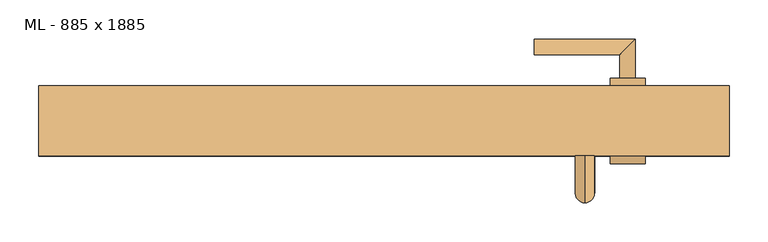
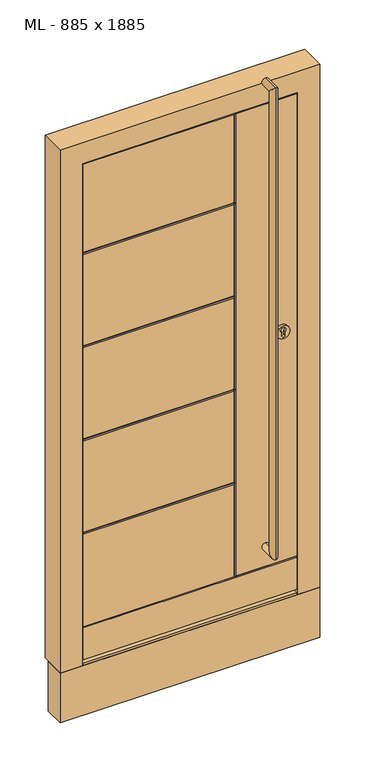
"""IFC4 building model written with IfcOpenShell, lengths in millimetres: door geometry, TU DF 1 - Haustüre : ML - 885 x 1885."""

import ifcopenshell
import ifcopenshell.guid

model = None  # the IFC model being written
_history = None  # IfcOwnerHistory: only IFC2X3 demands one
_inside = {}  # id of a spatial element -> (the spatial element, [elements in it])
_under = {}  # id of a project, library or spatial element -> (it, [spatial elements below it])
_declared = {}  # id of a project -> (the project, [libraries it declares])
_typed = {}  # id of a type object -> (the type object, [elements of that type])
_made_of = {}  # id of a material, layer set ... -> (it, [elements and type objects made of it])


def new_model(schema):
    """Start an empty IFC model of exactly this schema.

    Asked for "IFC4X3", IfcOpenShell would pick the latest addendum, in which some entities
    have other attributes; the version numbers below select the first issue.
    IFC2X3 requires an IfcOwnerHistory on every rooted entity: one is made here for all.
    """
    global model, _history
    if schema == "IFC4X3":
        model = ifcopenshell.file(schema_version=(4, 3, 0, 0))
    else:
        model = ifcopenshell.file(schema=schema)
    _inside.clear()
    _under.clear()
    _declared.clear()
    _typed.clear()
    _made_of.clear()
    _history = None
    if model.schema == "IFC2X3":
        org = make("IfcOrganization", Name="unknown")
        user = make(
            "IfcPersonAndOrganization",
            ThePerson=make("IfcPerson", FamilyName="unknown"),
            TheOrganization=org,
        )
        app = make(
            "IfcApplication",
            ApplicationDeveloper=org,
            Version="unknown",
            ApplicationFullName="unknown",
            ApplicationIdentifier="unknown",
        )
        _history = make(
            "IfcOwnerHistory",
            OwningUser=user,
            OwningApplication=app,
            ChangeAction="ADDED",
            CreationDate=0,
        )
    return model


def make(cls, **values):
    """One entity of the class cls with the attributes given. An attribute that is None is left unset."""
    return model.create_entity(
        cls, **{name: value for name, value in values.items() if value is not None}
    )


def rooted(cls, **values):
    """An entity with a GlobalId (a new one), such as an element, a storey or a relation."""
    return make(cls, GlobalId=ifcopenshell.guid.new(), OwnerHistory=_history, **values)


def si_unit(unit_type, name, prefix=None):
    """IfcSIUnit, for example si_unit("LENGTHUNIT", "METRE", prefix="MILLI")."""
    return make("IfcSIUnit", UnitType=unit_type, Prefix=prefix, Name=name)


def assignment(units):
    """IfcUnitAssignment: the units of a project."""
    return None if units is None else make("IfcUnitAssignment", Units=units)


def point(xyz):
    """IfcCartesianPoint."""
    return None if xyz is None else make("IfcCartesianPoint", Coordinates=xyz)


def direction(xyz):
    """IfcDirection."""
    return None if xyz is None else make("IfcDirection", DirectionRatios=xyz)


def frame(location, z_axis=None, x_axis=None):
    """IfcAxis2Placement3D, a coordinate frame: its origin and axes. An axis left out is left unset."""
    return make(
        "IfcAxis2Placement3D",
        Location=point(location),
        Axis=direction(z_axis),
        RefDirection=direction(x_axis),
    )


def frame_2d(location, x_axis=None):
    """IfcAxis2Placement2D, a coordinate frame in the plane: its origin and x axis."""
    return make(
        "IfcAxis2Placement2D", Location=point(location), RefDirection=direction(x_axis)
    )


def origin():
    """The frame at (0, 0, 0) with its axes left unset."""
    return frame((0.0, 0.0, 0.0))


def place(relative_to, where):
    """IfcLocalPlacement: puts the frame where relative to a parent placement (None: the world)."""
    return make(
        "IfcLocalPlacement", PlacementRelTo=relative_to, RelativePlacement=where
    )


def context(
    kind, dimensions, precision=None, world=None, true_north=None, identifier=None
):
    """IfcGeometricRepresentationContext, for example the 3D "Model" context."""
    return make(
        "IfcGeometricRepresentationContext",
        ContextIdentifier=identifier,
        ContextType=kind,
        CoordinateSpaceDimension=dimensions,
        Precision=precision,
        WorldCoordinateSystem=world,
        TrueNorth=true_north,
    )


def project(units=None, contexts=None):
    """IfcProject with its units and contexts."""
    return rooted(
        "IfcProject",
        Name="project",
        RepresentationContexts=contexts,
        UnitsInContext=assignment(units),
    )


def spatial(cls, under=None, at=None, **own):
    """A site, building, storey or space (cls), placed at a placement, below another one or the project."""
    s = rooted(cls, ObjectPlacement=at, **own)
    if under is not None:
        _under.setdefault(under.id(), (under, []))[1].append(s)
    return s


def polyline(points):
    """IfcPolyline through the points."""
    return make("IfcPolyline", Points=[point(p) for p in points])


def circle_curve(where, radius):
    """IfcCircle in the frame where."""
    return make("IfcCircle", Position=where, Radius=radius)


def ellipse_curve(where, semi_axis1, semi_axis2):
    """IfcEllipse in the frame where."""
    return make(
        "IfcEllipse", Position=where, SemiAxis1=semi_axis1, SemiAxis2=semi_axis2
    )


def trimmed(basis, trim1, trim2, sense, master):
    """IfcTrimmedCurve: the piece of a basis curve between two trims."""
    return make(
        "IfcTrimmedCurve",
        BasisCurve=basis,
        Trim1=trim1,
        Trim2=trim2,
        SenseAgreement=sense,
        MasterRepresentation=master,
    )


def segment(curve, same_sense, transition):
    """IfcCompositeCurveSegment."""
    return make(
        "IfcCompositeCurveSegment",
        Transition=transition,
        SameSense=same_sense,
        ParentCurve=curve,
    )


def composite_curve(segments, self_intersect=None):
    """IfcCompositeCurve: segments joined end to end."""
    return make("IfcCompositeCurve", Segments=segments, SelfIntersect=self_intersect)


def outline(outer, holes=None, kind="AREA"):
    """IfcArbitraryClosedProfileDef: a profile drawn as a closed curve; with holes, ...WithVoids."""
    if holes is None:
        return make("IfcArbitraryClosedProfileDef", ProfileType=kind, OuterCurve=outer)
    return make(
        "IfcArbitraryProfileDefWithVoids",
        ProfileType=kind,
        OuterCurve=outer,
        InnerCurves=holes,
    )


def extrude(swept, where, along, depth):
    """IfcExtrudedAreaSolid: the profile swept, set in the frame where, extruded along a direction by depth."""
    return make(
        "IfcExtrudedAreaSolid",
        SweptArea=swept,
        Position=where,
        ExtrudedDirection=direction(along),
        Depth=depth,
    )


def faces_of(points, faces, orient=None, outer=None):
    """IfcFace entities. A face is a list of loops; a loop is a list of indices into points, from 0.

    orient and outer hold one flag for each loop. By default every Orientation is true, the
    first loop of a face is its IfcFaceOuterBound and the others are IfcFaceBound.
    """
    made = []
    for i, loops in enumerate(faces):
        bounds = []
        for j, loop in enumerate(loops):
            is_outer = j == 0 if outer is None else outer[i][j]
            bounds.append(
                make(
                    "IfcFaceOuterBound" if is_outer else "IfcFaceBound",
                    Bound=make("IfcPolyLoop", Polygon=[points[k] for k in loop]),
                    Orientation=True if orient is None else orient[i][j],
                )
            )
        made.append(make("IfcFace", Bounds=bounds))
    return made


def faceted_brep(points, faces, orient=None, outer=None, voids=None):
    """IfcFacetedBrep: a solid bounded by flat faces; with voids (closed shells), ...WithVoids."""
    shared = [point(p) for p in points]
    hull = make("IfcClosedShell", CfsFaces=faces_of(shared, faces, orient, outer))
    if voids is None:
        return make("IfcFacetedBrep", Outer=hull)
    return make(
        "IfcFacetedBrepWithVoids",
        Outer=hull,
        Voids=[
            make(cls, CfsFaces=faces_of(shared, fs, o, b)) for cls, fs, o, b in voids
        ],
    )


def shape(context_of_items, identifier, shape_type, items):
    """IfcShapeRepresentation: the items that make up one representation, for example the "Body"."""
    return make(
        "IfcShapeRepresentation",
        ContextOfItems=context_of_items,
        RepresentationIdentifier=identifier,
        RepresentationType=shape_type,
        Items=items,
    )


def source(mapping_origin, context_of_items, identifier, shape_type, items):
    """IfcRepresentationMap: a shape defined once, which mapped items show again and again."""
    return make(
        "IfcRepresentationMap",
        MappingOrigin=mapping_origin,
        MappedRepresentation=shape(context_of_items, identifier, shape_type, items),
    )


def transform(
    local_origin,
    x_axis=None,
    y_axis=None,
    z_axis=None,
    scale=None,
    scale2=None,
    scale3=None,
    uniform=True,
):
    """IfcCartesianTransformationOperator3D, or its non-uniform kind. x_axis, y_axis, z_axis: its Axis1, 2, 3."""
    if uniform:
        return make(
            "IfcCartesianTransformationOperator3D",
            Axis1=direction(x_axis),
            Axis2=direction(y_axis),
            LocalOrigin=point(local_origin),
            Scale=scale,
            Axis3=direction(z_axis),
        )
    return make(
        "IfcCartesianTransformationOperator3DnonUniform",
        Axis1=direction(x_axis),
        Axis2=direction(y_axis),
        LocalOrigin=point(local_origin),
        Scale=scale,
        Axis3=direction(z_axis),
        Scale2=scale2,
        Scale3=scale3,
    )


def mapped(mapping_source, mapping_target):
    """IfcMappedItem: shows the shape of a source again, moved by a transform."""
    return make(
        "IfcMappedItem", MappingSource=mapping_source, MappingTarget=mapping_target
    )


def made_of(thing, what):
    """Note that an element or type object is made of a material, layer set ...; save() writes the relation."""
    if what is not None:
        _made_of.setdefault(what.id(), (what, []))[1].append(thing)
    return thing


def element(
    cls,
    number,
    at=None,
    inside=None,
    cuts=None,
    type_object=None,
    material=None,
    context=None,
    identifier="Body",
    shape_type=None,
    held_by="IfcProductDefinitionShape",
    body=None,
    shapes=None,
    **own,
):
    """One element of the class cls, such as IfcWall. Its Tag is "e" and its number.

    at: its placement. inside: the storey or other place that contains it. cuts: it is an
    opening in that element (IfcRelVoidsElement). A single representation is given by context,
    identifier, shape_type and body (its items); several are given by shapes. held_by: the class
    of the entity that holds the representations. save() writes the other relations.
    """
    e = rooted(cls, Tag="e%d" % number, ObjectPlacement=at, **own)
    if body is not None:
        shapes = [shape(context, identifier, shape_type, body)]
    if shapes is not None:
        e.Representation = make(held_by, Representations=shapes)
    if inside is not None:
        _inside.setdefault(inside.id(), (inside, []))[1].append(e)
    if cuts is not None:
        rooted(
            "IfcRelVoidsElement", RelatingBuildingElement=cuts, RelatedOpeningElement=e
        )
    if type_object is not None:
        _typed.setdefault(type_object.id(), (type_object, []))[1].append(e)
    return made_of(e, material)


def aggregate(whole, parts):
    """IfcRelAggregates: a whole, such as a stair, and the parts it consists of."""
    return rooted("IfcRelAggregates", RelatingObject=whole, RelatedObjects=parts)


def save(model, path):
    """Write the relations noted so far, then the file.

    IfcRelAggregates (storeys below a building ...), IfcRelContainedInSpatialStructure (elements
    in a storey), IfcRelDefinesByType, IfcRelAssociatesMaterial and IfcRelDeclares: one each for
    every whole, place, type object, material and project.
    """
    for whole, parts in _under.values():
        aggregate(whole, parts)
    for where, things in _inside.values():
        rooted(
            "IfcRelContainedInSpatialStructure",
            RelatedElements=things,
            RelatingStructure=where,
        )
    for kind, things in _typed.values():
        rooted("IfcRelDefinesByType", RelatedObjects=things, RelatingType=kind)
    for what, things in _made_of.values():
        rooted("IfcRelAssociatesMaterial", RelatedObjects=things, RelatingMaterial=what)
    for by, libraries in _declared.values():
        rooted("IfcRelDeclares", RelatingContext=by, RelatedDefinitions=libraries)
    model.write(path)


def plane_surface(at):
    """IfcPlane: the flat surface through the origin of the frame at, square to its z axis."""
    return make("IfcPlane", Position=at)


def cylinder_surface(at, radius):
    """IfcCylindricalSurface: all points at the distance radius from the z axis of the frame at."""
    return make("IfcCylindricalSurface", Position=at, Radius=radius)


def revolved_surface(curve, axis_point, axis_direction):
    """IfcSurfaceOfRevolution: the curve turned about the line through axis_point along axis_direction."""
    return make(
        "IfcSurfaceOfRevolution",
        SweptCurve=make("IfcArbitraryOpenProfileDef", ProfileType="CURVE", Curve=curve),
        AxisPosition=make("IfcAxis1Placement", Location=point(axis_point), Axis=direction(axis_direction)),
    )


def advanced_brep(points, edges, surfaces, faces):
    """IfcAdvancedBrep: a solid bounded by faces that lie on surfaces and meet in shared edges.

    An edge is (start, end): straight between two places in points (the first is 0);
    or (start, end, curve); or (start, end, curve, False) where it runs against its curve.
    A face is (place in surfaces, loops), or (place, loops, False) where it looks against
    its surface's normal. A loop lists edges by number (the first is 1), with a minus sign
    where the edge is run from its end to its start. The first loop is the outer one.
    """
    corners = [point(p) for p in points]
    vertices = [make("IfcVertexPoint", VertexGeometry=c) for c in corners]
    made = []
    for start, end, *more in edges:
        made.append(
            make(
                "IfcEdgeCurve",
                EdgeStart=vertices[start],
                EdgeEnd=vertices[end],
                EdgeGeometry=more[0] if more else make("IfcPolyline", Points=[corners[start], corners[end]]),
                SameSense=more[1] if len(more) > 1 else True,
            )
        )
    hull = []
    for where, loops, *sense in faces:
        bounds = []
        for j, loop in enumerate(loops):
            ring = [make("IfcOrientedEdge", EdgeElement=made[abs(k) - 1], Orientation=k > 0) for k in loop]
            bounds.append(
                make(
                    "IfcFaceOuterBound" if j == 0 else "IfcFaceBound",
                    Bound=make("IfcEdgeLoop", EdgeList=ring),
                    Orientation=True,
                )
            )
        hull.append(make("IfcAdvancedFace", Bounds=bounds, FaceSurface=surfaces[where], SameSense=sense[0] if sense else True))
    return make("IfcAdvancedBrep", Outer=make("IfcClosedShell", CfsFaces=hull))


def ml_885_x_1885_5f7d4f0f(model_context):
    return source(origin(), model_context, "Body", "SolidModel", [
        advanced_brep(
        [(257.5, -187.5, 1875.0), (257.5, -187.5, 1900.0), (257.5, -187.5, 225.0), (257.5, -187.5, 200.0), (257.5, -222.5, 225.0), (257.5, -247.5, 200.0), (257.5, -247.5, 1900.0), (257.5, -222.5, 1875.0)],
        [
            (0, 1, circle_curve(frame((257.5, -187.5, 1887.5), z_axis=(0.0, 1.0, 0.0), x_axis=(0.0, 0.0, 1.0)), 12.5)),
            (1, 0, circle_curve(frame((257.5, -187.5, 1887.5), z_axis=(0.0, 1.0, 0.0), x_axis=(0.0, 0.0, 1.0)), 12.5)),
            (2, 3, circle_curve(frame((257.5, -187.5, 212.5), z_axis=(0.0, 1.0, 0.0), x_axis=(0.0, 0.0, -1.0)), 12.5)),
            (3, 2, circle_curve(frame((257.5, -187.5, 212.5), z_axis=(0.0, 1.0, 0.0), x_axis=(0.0, 0.0, -1.0)), 12.5)),
            (4, 5, ellipse_curve(frame((257.5, -235.0, 212.5), z_axis=(0.0, 0.7071067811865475, -0.7071067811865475), x_axis=(0.0, -0.7071067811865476, -0.7071067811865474)), 17.6776695, 12.5)),
            (5, 3),
            (2, 4),
            (5, 4, ellipse_curve(frame((257.5, -235.0, 212.5), z_axis=(0.0, 0.7071067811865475, -0.7071067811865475), x_axis=(0.0, -0.7071067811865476, -0.7071067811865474)), 17.6776695, 12.5)),
            (6, 7, ellipse_curve(frame((257.5, -235.0, 1887.5), z_axis=(0.0, -0.7071067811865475, -0.7071067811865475), x_axis=(0.0, -0.7071067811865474, 0.7071067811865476)), 17.6776695, 12.5)),
            (7, 4),
            (5, 6),
            (7, 6, ellipse_curve(frame((257.5, -235.0, 1887.5), z_axis=(0.0, -0.7071067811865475, -0.7071067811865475), x_axis=(0.0, -0.7071067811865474, 0.7071067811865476)), 17.6776695, 12.5)),
            (0, 7),
            (6, 1),
        ],
        [
            plane_surface(frame((257.5, -187.5, 1900.0), z_axis=(0.0, 1.0, 0.0), x_axis=(-1.0, 0.0, 0.0))),
            plane_surface(frame((257.5, -187.5, 200.0), z_axis=(0.0, 1.0, 0.0), x_axis=(-1.0, 0.0, 0.0))),
            cylinder_surface(frame((257.5, -247.5, 212.5), z_axis=(0.0, -1.0, 0.0), x_axis=(0.0, 0.0, -1.0)), 12.5),
            cylinder_surface(frame((257.5, -235.0, 1900.0), z_axis=(0.0, 0.0, 1.0), x_axis=(0.0, -1.0, 0.0)), 12.5),
            cylinder_surface(frame((257.5, -187.5, 1887.5), z_axis=(0.0, 1.0, 0.0), x_axis=(0.0, 0.0, 1.0)), 12.5),
        ],
        [
            (0, [[1, 2]]),
            (1, [[3, 4]]),
            (2, [[5, 6, -3, 7]]),
            (2, [[8, -7, -4, -6]]),
            (3, [[9, 10, -8, 11]]),
            (3, [[12, -11, -5, -10]]),
            (4, [[-1, 13, -9, 14]]),
            (4, [[-2, -14, -12, -13]]),
        ],
    ),
        advanced_brep(
        [(335.0, -187.5, 970.0), (290.0, -187.5, 970.0), (335.0, -197.5, 970.0), (290.0, -197.5, 970.0), (317.5, -197.5, 958.5), (307.5, -197.5, 958.5), (307.5, -197.5, 971.1261365), (317.5, -197.5, 971.1261365), (317.5, -189.5, 971.1261365), (317.5, -189.5, 958.5), (307.5, -189.5, 971.1261365), (307.5, -189.5, 958.5)],
        [
            (0, 1, circle_curve(frame((312.5, -187.5, 970.0), z_axis=(0.0, 1.0, 0.0), x_axis=(-1.0, 0.0, 0.0)), 22.5)),
            (1, 0, circle_curve(frame((312.5, -187.5, 970.0), z_axis=(0.0, 1.0, 0.0), x_axis=(-1.0, 0.0, 0.0)), 22.5)),
            (2, 3, circle_curve(frame((312.5, -197.5, 970.0), z_axis=(0.0, -1.0, 0.0), x_axis=(-1.0, 0.0, 0.0)), 22.5)),
            (3, 2, circle_curve(frame((312.5, -197.5, 970.0), z_axis=(0.0, -1.0, 0.0), x_axis=(-1.0, 0.0, 0.0)), 22.5)),
            (4, 5, circle_curve(frame((312.5, -197.5, 958.5), z_axis=(0.0, 1.0, 0.0), x_axis=(-1.0, 0.0, 0.0)), 5.0)),
            (5, 6),
            (6, 7, circle_curve(frame((312.5, -197.5, 978.0), z_axis=(0.0, 1.0, 0.0), x_axis=(-1.0, 0.0, 0.0)), 8.5)),
            (7, 4),
            (0, 2),
            (3, 1),
            (7, 8),
            (8, 9),
            (9, 4),
            (6, 10),
            (10, 8, circle_curve(frame((312.5, -189.5, 978.0), z_axis=(0.0, 1.0, 0.0), x_axis=(-1.0, 0.0, 0.0)), 8.5)),
            (5, 11),
            (11, 10),
            (9, 11, circle_curve(frame((312.5, -189.5, 958.5), z_axis=(0.0, 1.0, 0.0), x_axis=(-1.0, 0.0, 0.0)), 5.0)),
        ],
        [
            plane_surface(frame((290.0, -187.5, 970.0), z_axis=(0.0, 1.0, 0.0), x_axis=(0.0, 0.0, 1.0))),
            plane_surface(frame((290.0, -197.5, 970.0), z_axis=(0.0, -1.0, 0.0), x_axis=(0.0, 0.0, -1.0))),
            cylinder_surface(frame((312.5, -197.5, 970.0), z_axis=(0.0, 1.0, 0.0), x_axis=(-1.0, 0.0, 0.0)), 22.5),
            plane_surface(frame((317.5, -187.5, 958.5), z_axis=(-1.0, 0.0, 0.0), x_axis=(0.0, -1.0, 0.0))),
            revolved_surface(polyline([(304.0, -197.5, 978.0), (304.0, -189.5, 978.0)]), (312.5, -187.5, 978.0), (0.0, -1.0, 0.0)),
            plane_surface(frame((307.5, -187.5, 971.1261365), z_axis=(1.0, 0.0, 0.0), x_axis=(0.0, -1.0, 0.0))),
            revolved_surface(polyline([(307.5, -197.5, 958.5), (307.5, -189.5, 958.5)]), (312.5, -187.5, 958.5), (0.0, -1.0, 0.0)),
            plane_surface(frame((304.0, -189.5, 978.0), z_axis=(0.0, -1.0, 0.0), x_axis=(0.0, 0.0, -1.0))),
        ],
        [
            (0, [[1, 2]]),
            (1, [[3, 4], [5, 6, 7, 8]]),
            (2, [[-1, 9, -4, 10]]),
            (2, [[-2, -10, -3, -9]]),
            (3, [[-8, 11, 12, 13]]),
            (4, [[-7, 14, 15, -11]]),
            (5, [[-6, 16, 17, -14]]),
            (6, [[-5, -13, 18, -16]]),
            (7, [[-12, -15, -17, -18]]),
        ],
    ),
        advanced_brep(
        [(149.5, -97.5, 480.2), (-393.5, -97.5, 480.2), (-393.5, -97.5, 808.4), (149.5, -97.5, 808.4), (149.5, -97.5, 816.4), (-393.5, -97.5, 816.4), (-393.5, -97.5, 1144.6), (149.5, -97.5, 1144.6), (393.5, -97.5, 1836.0), (393.5, -97.5, 8.0), (157.5, -97.5, 8.0), (157.5, -97.5, 1836.0), (149.5, -97.5, 1152.6), (-393.5, -97.5, 1152.6), (-393.5, -97.5, 1480.8), (149.5, -97.5, 1480.8), (-393.5, -97.5, 8.0), (-393.5, -97.5, 136.0), (149.5, -97.5, 136.0), (149.5, -97.5, 8.0), (-393.5, -97.5, 144.0), (-393.5, -97.5, 472.2), (149.5, -97.5, 472.2), (149.5, -97.5, 144.0), (-393.5, -97.5, 1836.0), (149.5, -97.5, 1836.0), (149.5, -97.5, 1488.8), (-393.5, -97.5, 1488.8), (393.5, -117.5, 1836.0), (393.5, -117.5, 8.0), (-393.5, -117.5, 1836.0), (-393.5, -117.5, 8.0), (-378.5, -117.5, 1821.0), (378.5, -117.5, 1821.0), (378.5, -117.5, 20.0), (-378.5, -117.5, 20.0), (378.5, -167.5, 1821.0), (378.5, -167.5, 20.0), (-378.5, -167.5, 1821.0), (-378.5, -167.5, 20.0), (-363.5, -167.5, 1806.0), (363.5, -167.5, 1806.0), (363.5, -167.5, 140.0), (-363.5, -167.5, 140.0), (363.5, -187.5, 1806.0), (363.5, -187.5, 140.0), (-363.5, -187.5, 480.2), (149.5, -187.5, 480.2), (149.5, -187.5, 808.4), (-363.5, -187.5, 808.4), (-363.5, -187.5, 816.4), (149.5, -187.5, 816.4), (149.5, -187.5, 1144.6), (-363.5, -187.5, 1144.6), (-363.5, -187.5, 1152.6), (149.5, -187.5, 1152.6), (149.5, -187.5, 1480.8), (-363.5, -187.5, 1480.8), (157.5, -187.5, 1806.0), (157.5, -187.5, 140.0), (-363.5, -187.5, 472.2), (-363.5, -187.5, 140.0), (149.5, -187.5, 140.0), (149.5, -187.5, 472.2), (149.5, -187.5, 1806.0), (-363.5, -187.5, 1806.0), (-363.5, -187.5, 1488.8), (149.5, -187.5, 1488.8), (-363.5, -183.5, 476.2), (-363.5, -183.5, 812.4), (-363.5, -183.5, 1148.6), (-363.5, -183.5, 1484.8), (-393.5, -101.5, 1484.8), (-393.5, -101.5, 1148.6), (-393.5, -101.5, 812.4), (-393.5, -101.5, 476.2), (-393.5, -101.5, 140.0), (153.5, -101.5, 1836.0), (153.5, -183.5, 1806.0), (153.5, -101.5, 8.0), (153.5, -183.5, 140.0), (153.5, -183.5, 476.2), (153.5, -101.5, 476.2), (153.5, -101.5, 140.0), (153.5, -183.5, 1484.8), (153.5, -183.5, 1148.6), (153.5, -183.5, 812.4), (153.5, -101.5, 812.4), (153.5, -101.5, 1148.6), (153.5, -101.5, 1484.8)],
        [
            (0, 1),
            (1, 2),
            (2, 3),
            (3, 0),
            (4, 5),
            (5, 6),
            (6, 7),
            (7, 4),
            (8, 9),
            (9, 10),
            (10, 11),
            (11, 8),
            (12, 13),
            (13, 14),
            (14, 15),
            (15, 12),
            (16, 17),
            (17, 18),
            (18, 19),
            (19, 16),
            (20, 21),
            (21, 22),
            (22, 23),
            (23, 20),
            (24, 25),
            (25, 26),
            (26, 27),
            (27, 24),
            (8, 28),
            (28, 29),
            (29, 9),
            (28, 30),
            (30, 31),
            (31, 29),
            (32, 33),
            (33, 34),
            (34, 35),
            (35, 32),
            (33, 36),
            (36, 37),
            (37, 34),
            (36, 38),
            (38, 39),
            (39, 37),
            (40, 41),
            (41, 42),
            (42, 43),
            (43, 40),
            (41, 44),
            (44, 45),
            (45, 42),
            (46, 47),
            (47, 48),
            (48, 49),
            (49, 46),
            (50, 51),
            (51, 52),
            (52, 53),
            (53, 50),
            (54, 55),
            (55, 56),
            (56, 57),
            (57, 54),
            (44, 58),
            (58, 59),
            (59, 45),
            (60, 61),
            (61, 62),
            (62, 63),
            (63, 60),
            (64, 65),
            (65, 66),
            (66, 67),
            (67, 64),
            (65, 40),
            (43, 61),
            (60, 68, circle_curve(frame((-363.5, -183.5, 472.2), z_axis=(-1.0, 0.0, 0.0), x_axis=(0.0, -1.0, 0.0)), 4.0)),
            (68, 46, circle_curve(frame((-363.5, -183.5, 480.2), z_axis=(-1.0, 0.0, 0.0), x_axis=(0.0, -1.0, 0.0)), 4.0)),
            (49, 69, circle_curve(frame((-363.5, -183.5, 808.4), z_axis=(-1.0, 0.0, 0.0), x_axis=(0.0, -1.0, 0.0)), 4.0)),
            (69, 50, circle_curve(frame((-363.5, -183.5, 816.4), z_axis=(-1.0, 0.0, 0.0), x_axis=(0.0, -1.0, 0.0)), 4.0)),
            (53, 70, circle_curve(frame((-363.5, -183.5, 1144.6), z_axis=(-1.0, 0.0, 0.0), x_axis=(0.0, -1.0, 0.0)), 4.0)),
            (70, 54, circle_curve(frame((-363.5, -183.5, 1152.6), z_axis=(-1.0, 0.0, 0.0), x_axis=(0.0, -1.0, 0.0)), 4.0)),
            (57, 71, circle_curve(frame((-363.5, -183.5, 1480.8), z_axis=(-1.0, 0.0, 0.0), x_axis=(0.0, -1.0, 0.0)), 4.0)),
            (71, 66, circle_curve(frame((-363.5, -183.5, 1488.8), z_axis=(-1.0, 0.0, 0.0), x_axis=(0.0, -1.0, 0.0)), 4.0)),
            (38, 32),
            (35, 39),
            (30, 24),
            (27, 72, circle_curve(frame((-393.5, -101.5, 1488.8), z_axis=(-1.0, 0.0, 0.0), x_axis=(0.0, 1.0, 0.0)), 4.0)),
            (72, 14, circle_curve(frame((-393.5, -101.5, 1480.8), z_axis=(-1.0, 0.0, 0.0), x_axis=(0.0, 1.0, 0.0)), 4.0)),
            (13, 73, circle_curve(frame((-393.5, -101.5, 1152.6), z_axis=(-1.0, 0.0, 0.0), x_axis=(0.0, 1.0, 0.0)), 4.0)),
            (73, 6, circle_curve(frame((-393.5, -101.5, 1144.6), z_axis=(-1.0, 0.0, 0.0), x_axis=(0.0, 1.0, 0.0)), 4.0)),
            (5, 74, circle_curve(frame((-393.5, -101.5, 816.4), z_axis=(-1.0, 0.0, 0.0), x_axis=(0.0, 1.0, 0.0)), 4.0)),
            (74, 2, circle_curve(frame((-393.5, -101.5, 808.4), z_axis=(-1.0, 0.0, 0.0), x_axis=(0.0, 1.0, 0.0)), 4.0)),
            (1, 75, circle_curve(frame((-393.5, -101.5, 480.2), z_axis=(-1.0, 0.0, 0.0), x_axis=(0.0, 1.0, 0.0)), 4.0)),
            (75, 21, circle_curve(frame((-393.5, -101.5, 472.2), z_axis=(-1.0, 0.0, 0.0), x_axis=(0.0, 1.0, 0.0)), 4.0)),
            (20, 76, circle_curve(frame((-393.5, -101.5, 144.0), z_axis=(-1.0, 0.0, 0.0), x_axis=(0.0, 1.0, 0.0)), 4.0)),
            (76, 17, circle_curve(frame((-393.5, -101.5, 136.0), z_axis=(-1.0, 0.0, 0.0), x_axis=(0.0, 1.0, 0.0)), 4.0)),
            (16, 31),
            (11, 77, circle_curve(frame((157.5, -101.5, 1836.0), z_axis=(0.0, 0.0, 1.0), x_axis=(0.0, 1.0, 0.0)), 4.0)),
            (77, 25, circle_curve(frame((149.5, -101.5, 1836.0), z_axis=(0.0, 0.0, 1.0), x_axis=(0.0, 1.0, 0.0)), 4.0)),
            (64, 78, circle_curve(frame((149.5, -183.5, 1806.0), z_axis=(0.0, 0.0, 1.0), x_axis=(0.0, -1.0, 0.0)), 4.0)),
            (78, 58, circle_curve(frame((157.5, -183.5, 1806.0), z_axis=(0.0, 0.0, 1.0), x_axis=(0.0, -1.0, 0.0)), 4.0)),
            (19, 79, circle_curve(frame((149.5, -101.5, 8.0), z_axis=(0.0, 0.0, -1.0), x_axis=(0.0, 1.0, 0.0)), 4.0)),
            (79, 10, circle_curve(frame((157.5, -101.5, 8.0), z_axis=(0.0, 0.0, -1.0), x_axis=(0.0, 1.0, 0.0)), 4.0)),
            (59, 80, circle_curve(frame((157.5, -183.5, 140.0), z_axis=(0.0, 0.0, -1.0), x_axis=(0.0, -1.0, 0.0)), 4.0)),
            (80, 62, circle_curve(frame((149.5, -183.5, 140.0), z_axis=(0.0, 0.0, -1.0), x_axis=(0.0, -1.0, 0.0)), 4.0)),
            (81, 68),
            (63, 81, ellipse_curve(frame((149.5, -183.5, 472.2), z_axis=(-0.7071067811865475, 0.0, 0.7071067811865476), x_axis=(-0.7071067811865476, 0.0, -0.7071067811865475)), 5.6568542, 4.0)),
            (81, 47, ellipse_curve(frame((149.5, -183.5, 480.2), z_axis=(-0.7071067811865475, 0.0, -0.7071067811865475), x_axis=(-0.7071067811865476, 0.0, 0.7071067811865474)), 5.6568542, 4.0)),
            (75, 82),
            (82, 22, ellipse_curve(frame((149.5, -101.5, 472.2), z_axis=(-0.7071067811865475, 0.0, 0.7071067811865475), x_axis=(0.7071067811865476, 0.0, 0.7071067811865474)), 5.6568542, 4.0)),
            (0, 82, ellipse_curve(frame((149.5, -101.5, 480.2), z_axis=(-0.7071067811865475, 0.0, -0.7071067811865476), x_axis=(0.7071067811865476, 0.0, -0.7071067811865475)), 5.6568542, 4.0)),
            (76, 83),
            (83, 18, ellipse_curve(frame((149.5, -101.5, 136.0), z_axis=(-0.7071067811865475, 0.0, 0.7071067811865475), x_axis=(-0.7071067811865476, 0.0, -0.7071067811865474)), 5.6568542, 4.0)),
            (23, 83, ellipse_curve(frame((149.5, -101.5, 144.0), z_axis=(-0.7071067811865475, 0.0, -0.7071067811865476), x_axis=(-0.7071067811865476, 0.0, 0.7071067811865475)), 5.6568542, 4.0)),
            (81, 80),
            (78, 84),
            (84, 85),
            (85, 86),
            (86, 81),
            (67, 84, ellipse_curve(frame((149.5, -183.5, 1488.8), z_axis=(0.7071067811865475, 0.0, 0.7071067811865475), x_axis=(-0.7071067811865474, 0.0, 0.7071067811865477)), 5.6568542, 4.0)),
            (86, 48, ellipse_curve(frame((149.5, -183.5, 808.4), z_axis=(0.7071067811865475, 0.0, -0.7071067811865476), x_axis=(0.7071067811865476, 0.0, 0.7071067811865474)), 5.6568542, 4.0)),
            (51, 86, ellipse_curve(frame((149.5, -183.5, 816.4), z_axis=(0.7071067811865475, 0.0, 0.7071067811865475), x_axis=(-0.7071067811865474, 0.0, 0.7071067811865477)), 5.6568542, 4.0)),
            (85, 52, ellipse_curve(frame((149.5, -183.5, 1144.6), z_axis=(0.7071067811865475, 0.0, -0.7071067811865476), x_axis=(0.7071067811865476, 0.0, 0.7071067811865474)), 5.6568542, 4.0)),
            (55, 85, ellipse_curve(frame((149.5, -183.5, 1152.6), z_axis=(0.7071067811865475, 0.0, 0.7071067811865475), x_axis=(-0.7071067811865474, 0.0, 0.7071067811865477)), 5.6568542, 4.0)),
            (84, 56, ellipse_curve(frame((149.5, -183.5, 1480.8), z_axis=(0.7071067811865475, 0.0, -0.7071067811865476), x_axis=(0.7071067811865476, 0.0, 0.7071067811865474)), 5.6568542, 4.0)),
            (86, 69),
            (83, 82),
            (82, 87),
            (87, 88),
            (88, 89),
            (89, 77),
            (79, 83),
            (89, 26, ellipse_curve(frame((149.5, -101.5, 1488.8), z_axis=(0.7071067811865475, 0.0, 0.7071067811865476), x_axis=(0.7071067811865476, 0.0, -0.7071067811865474)), 5.6568542, 4.0)),
            (3, 87, ellipse_curve(frame((149.5, -101.5, 808.4), z_axis=(0.7071067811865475, 0.0, -0.7071067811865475), x_axis=(-0.7071067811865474, 0.0, -0.7071067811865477)), 5.6568542, 4.0)),
            (87, 4, ellipse_curve(frame((149.5, -101.5, 816.4), z_axis=(0.7071067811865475, 0.0, 0.7071067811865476), x_axis=(0.7071067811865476, 0.0, -0.7071067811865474)), 5.6568542, 4.0)),
            (7, 88, ellipse_curve(frame((149.5, -101.5, 1144.6), z_axis=(0.7071067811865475, 0.0, -0.7071067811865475), x_axis=(-0.7071067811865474, 0.0, -0.7071067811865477)), 5.6568542, 4.0)),
            (88, 12, ellipse_curve(frame((149.5, -101.5, 1152.6), z_axis=(0.7071067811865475, 0.0, 0.7071067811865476), x_axis=(0.7071067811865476, 0.0, -0.7071067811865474)), 5.6568542, 4.0)),
            (15, 89, ellipse_curve(frame((149.5, -101.5, 1480.8), z_axis=(0.7071067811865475, 0.0, -0.7071067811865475), x_axis=(-0.7071067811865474, 0.0, -0.7071067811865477)), 5.6568542, 4.0)),
            (74, 87),
            (73, 88),
            (85, 70),
            (72, 89),
            (84, 71),
        ],
        [
            plane_surface(frame((393.5, -97.5, 1836.0), z_axis=(0.0, 1.0, 0.0), x_axis=(0.0, 0.0, -1.0))),
            plane_surface(frame((393.5, -187.5, 1836.0), z_axis=(1.0, 0.0, 0.0), x_axis=(0.0, 0.0, -1.0))),
            plane_surface(frame((378.5, -117.5, 0.0), z_axis=(0.0, -1.0, 0.0), x_axis=(0.0, 0.0, 1.0))),
            plane_surface(frame((378.5, -167.5, 0.0), z_axis=(1.0, 0.0, 0.0), x_axis=(0.0, 0.0, 1.0))),
            plane_surface(frame((363.5, -167.5, 0.0), z_axis=(0.0, -1.0, 0.0), x_axis=(0.0, 0.0, 1.0))),
            plane_surface(frame((363.5, -187.5, 0.0), z_axis=(1.0, 0.0, 0.0), x_axis=(0.0, 0.0, 1.0))),
            plane_surface(frame((-393.5, -187.5, 1836.0), z_axis=(0.0, -1.0, 0.0), x_axis=(0.0, 0.0, -1.0))),
            plane_surface(frame((-363.5, -187.5, 1806.0), z_axis=(-1.0, 0.0, 0.0), x_axis=(0.0, 0.0, -1.0))),
            plane_surface(frame((-378.5, -167.5, 1821.0), z_axis=(-1.0, 0.0, 0.0), x_axis=(0.0, 0.0, -1.0))),
            plane_surface(frame((-393.5, -97.5, 1836.0), z_axis=(-1.0, 0.0, 0.0), x_axis=(0.0, 0.0, -1.0))),
            plane_surface(frame((393.5, -187.5, 1836.0), z_axis=(0.0, 0.0, 1.0), x_axis=(1.0, 0.0, 0.0))),
            plane_surface(frame((363.5, -187.5, 1806.0), z_axis=(0.0, 0.0, 1.0), x_axis=(-1.0, 0.0, 0.0))),
            plane_surface(frame((378.5, -167.5, 1821.0), z_axis=(0.0, 0.0, 1.0), x_axis=(-1.0, 0.0, 0.0))),
            plane_surface(frame((-393.5, -187.5, 20.0), z_axis=(0.0, 0.0, -1.0), x_axis=(1.0, 0.0, 0.0))),
            plane_surface(frame((-393.5, -117.5, 8.0), z_axis=(0.0, 0.0, -1.0), x_axis=(1.0, 0.0, 0.0))),
            plane_surface(frame((-393.5, -187.5, 140.0), z_axis=(0.0, 0.0, -1.0), x_axis=(1.0, 0.0, 0.0))),
            cylinder_surface(frame((153.5, -183.5, 472.2), z_axis=(-1.0, 0.0, 0.0), x_axis=(0.0, -1.0, 0.0)), 4.0),
            cylinder_surface(frame((153.5, -183.5, 480.2), z_axis=(-1.0, 0.0, 0.0), x_axis=(0.0, -1.0, 0.0)), 4.0),
            cylinder_surface(frame((-433.5, -101.5, 472.2), z_axis=(1.0, 0.0, 0.0), x_axis=(0.0, 1.0, 0.0)), 4.0),
            cylinder_surface(frame((-433.5, -101.5, 480.2), z_axis=(1.0, 0.0, 0.0), x_axis=(0.0, 1.0, 0.0)), 4.0),
            cylinder_surface(frame((153.5, -101.5, 136.0), z_axis=(-1.0, 0.0, 0.0), x_axis=(0.0, 1.0, 0.0)), 4.0),
            cylinder_surface(frame((153.5, -101.5, 144.0), z_axis=(-1.0, 0.0, 0.0), x_axis=(0.0, 1.0, 0.0)), 4.0),
            cylinder_surface(frame((157.5, -183.5, -10.0), z_axis=(0.0, 0.0, 1.0), x_axis=(0.0, -1.0, 0.0)), 4.0),
            cylinder_surface(frame((149.5, -183.5, -10.0), z_axis=(0.0, 0.0, 1.0), x_axis=(0.0, -1.0, 0.0)), 4.0),
            cylinder_surface(frame((153.5, -183.5, 808.4), z_axis=(-1.0, 0.0, 0.0), x_axis=(0.0, -1.0, 0.0)), 4.0),
            cylinder_surface(frame((153.5, -183.5, 816.4), z_axis=(-1.0, 0.0, 0.0), x_axis=(0.0, -1.0, 0.0)), 4.0),
            cylinder_surface(frame((157.5, -101.5, 1846.0), z_axis=(0.0, 0.0, -1.0), x_axis=(0.0, 1.0, 0.0)), 4.0),
            cylinder_surface(frame((149.5, -101.5, 1846.0), z_axis=(0.0, 0.0, -1.0), x_axis=(0.0, 1.0, 0.0)), 4.0),
            cylinder_surface(frame((-433.5, -101.5, 808.4), z_axis=(1.0, 0.0, 0.0), x_axis=(0.0, 1.0, 0.0)), 4.0),
            cylinder_surface(frame((-433.5, -101.5, 816.4), z_axis=(1.0, 0.0, 0.0), x_axis=(0.0, 1.0, 0.0)), 4.0),
            cylinder_surface(frame((-433.5, -101.5, 1144.6), z_axis=(1.0, 0.0, 0.0), x_axis=(0.0, 1.0, 0.0)), 4.0),
            cylinder_surface(frame((-433.5, -101.5, 1152.6), z_axis=(1.0, 0.0, 0.0), x_axis=(0.0, 1.0, 0.0)), 4.0),
            cylinder_surface(frame((153.5, -183.5, 1144.6), z_axis=(-1.0, 0.0, 0.0), x_axis=(0.0, -1.0, 0.0)), 4.0),
            cylinder_surface(frame((153.5, -183.5, 1152.6), z_axis=(-1.0, 0.0, 0.0), x_axis=(0.0, -1.0, 0.0)), 4.0),
            cylinder_surface(frame((-433.5, -101.5, 1480.8), z_axis=(1.0, 0.0, 0.0), x_axis=(0.0, 1.0, 0.0)), 4.0),
            cylinder_surface(frame((-433.5, -101.5, 1488.8), z_axis=(1.0, 0.0, 0.0), x_axis=(0.0, 1.0, 0.0)), 4.0),
            cylinder_surface(frame((153.5, -183.5, 1480.8), z_axis=(-1.0, 0.0, 0.0), x_axis=(0.0, -1.0, 0.0)), 4.0),
            cylinder_surface(frame((153.5, -183.5, 1488.8), z_axis=(-1.0, 0.0, 0.0), x_axis=(0.0, -1.0, 0.0)), 4.0),
        ],
        [
            (0, [[1, 2, 3, 4]]),
            (0, [[5, 6, 7, 8]]),
            (0, [[9, 10, 11, 12]]),
            (0, [[13, 14, 15, 16]]),
            (0, [[17, 18, 19, 20]]),
            (0, [[21, 22, 23, 24]]),
            (0, [[25, 26, 27, 28]]),
            (1, [[29, 30, 31, -9]]),
            (2, [[32, 33, 34, -30], [35, 36, 37, 38]]),
            (3, [[39, 40, 41, -36]]),
            (4, [[42, 43, 44, -40], [45, 46, 47, 48]]),
            (5, [[49, 50, 51, -46]]),
            (6, [[52, 53, 54, 55]]),
            (6, [[56, 57, 58, 59]]),
            (6, [[60, 61, 62, 63]]),
            (6, [[-50, 64, 65, 66]]),
            (6, [[67, 68, 69, 70]]),
            (6, [[71, 72, 73, 74]]),
            (7, [[75, -48, 76, -67, 77, 78, -55, 79, 80, -59, 81, 82, -63, 83, 84, -72]]),
            (8, [[85, -38, 86, -43]]),
            (9, [[87, -28, 88, 89, -14, 90, 91, -6, 92, 93, -2, 94, 95, -21, 96, 97, -17, 98, -33]]),
            (10, [[-29, -12, 99, 100, -25, -87, -32]]),
            (11, [[-49, -45, -75, -71, 101, 102, -64]]),
            (12, [[-42, -39, -35, -85]]),
            (13, [[-37, -41, -44, -86]]),
            (14, [[-31, -34, -98, -20, 103, 104, -10]]),
            (15, [[-47, -51, -66, 105, 106, -68, -76]]),
            (16, [[107, -77, -70, 108]]),
            (17, [[-107, 109, -52, -78]]),
            (18, [[110, 111, -22, -95]]),
            (19, [[-110, -94, -1, 112]]),
            (20, [[113, 114, -18, -97]]),
            (21, [[-113, -96, -24, 115]]),
            (22, [[116, -105, -65, -102, 117, 118, 119, 120]]),
            (23, [[-101, -74, 121, -117]]),
            (23, [[-109, -120, 122, -53]]),
            (23, [[-116, -108, -69, -106]]),
            (23, [[123, -119, 124, -57]]),
            (23, [[125, -118, 126, -61]]),
            (24, [[127, -79, -54, -122]]),
            (25, [[-127, -123, -56, -80]]),
            (26, [[128, 129, 130, 131, 132, -99, -11, -104, 133]]),
            (27, [[-100, -132, 134, -26]]),
            (27, [[-112, -4, 135, -129]]),
            (27, [[-133, -103, -19, -114]]),
            (27, [[-128, -115, -23, -111]]),
            (27, [[136, -8, 137, -130]]),
            (27, [[138, -16, 139, -131]]),
            (28, [[140, -135, -3, -93]]),
            (29, [[-140, -92, -5, -136]]),
            (30, [[141, -137, -7, -91]]),
            (31, [[-141, -90, -13, -138]]),
            (32, [[142, -81, -58, -124]]),
            (33, [[-142, -125, -60, -82]]),
            (34, [[143, -139, -15, -89]]),
            (35, [[-143, -88, -27, -134]]),
            (36, [[144, -83, -62, -126]]),
            (37, [[-144, -121, -73, -84]]),
        ],
    ),
        extrude(outline(polyline([(-167.5, 140.0), (-167.5, 20.0), (-179.4609036, 20.0), (-179.4609036, 24.0), (-183.4609036, 24.0), (-183.4609036, 20.0), (-187.5, 20.0), (-187.5, 136.0), (-183.5, 136.0), (-183.5, 140.0), (-167.5, 140.0)])), frame((-363.5, 0.0, 0.0), z_axis=(1.0, 0.0, 0.0), x_axis=(0.0, 1.0, 0.0)), (0.0, 0.0, 1.0), 727.0),
        faceted_brep([(363.5, -167.5, 0.0), (363.5, -167.5, 9.0), (363.5, -187.5, 7.0), (363.5, -187.5, 0.0), (-363.5, -167.5, 0.0), (-363.5, -167.5, 9.0), (-378.5, -167.5, 9.0), (-378.5, -167.5, 0.0), (378.5, -167.5, 0.0), (378.5, -167.5, 9.0), (378.5, -117.5, 0.0), (378.5, -117.5, 15.0), (378.5, -137.5, 15.0), (378.5, -137.5, 12.0), (-363.5, -187.5, 0.0), (-363.5, -187.5, 7.0), (-378.5, -137.5, 12.0), (-378.5, -137.5, 15.0), (-378.5, -117.5, 15.0), (-378.5, -117.5, 0.0)], [[[0, 1, 2, 3]], [[4, 5, 6, 7]], [[1, 0, 8, 9]], [[9, 8, 10, 11, 12, 13]], [[5, 4, 14, 15]], [[7, 6, 16, 17, 18, 19]], [[18, 11, 10, 19]], [[19, 10, 8, 0, 3, 14, 4, 7]], [[14, 3, 2, 15]], [[11, 18, 17, 12]], [[15, 2, 1, 9, 13, 16, 6, 5]], [[12, 17, 16, 13]]]),
        advanced_brep(
        [(335.0, -97.5, 970.0), (290.0, -97.5, 970.0), (335.0, -87.5, 970.0), (290.0, -87.5, 970.0), (317.5, -87.5, 958.5), (317.5, -87.5, 971.1261365), (307.5, -87.5, 971.1261365), (307.5, -87.5, 958.5), (317.5, -95.5, 958.5), (317.5, -95.5, 971.1261365), (307.5, -95.5, 971.1261365), (307.5, -95.5, 958.5)],
        [
            (0, 1, circle_curve(frame((312.5, -97.5, 970.0), z_axis=(0.0, -1.0, 0.0), x_axis=(-1.0, 0.0, 0.0)), 22.5)),
            (1, 0, circle_curve(frame((312.5, -97.5, 970.0), z_axis=(0.0, -1.0, 0.0), x_axis=(-1.0, 0.0, 0.0)), 22.5)),
            (2, 3, circle_curve(frame((312.5, -87.5, 970.0), z_axis=(0.0, 1.0, 0.0), x_axis=(-1.0, 0.0, 0.0)), 22.5)),
            (3, 2, circle_curve(frame((312.5, -87.5, 970.0), z_axis=(0.0, 1.0, 0.0), x_axis=(-1.0, 0.0, 0.0)), 22.5)),
            (4, 5),
            (5, 6, circle_curve(frame((312.5, -87.5, 978.0), z_axis=(0.0, -1.0, 0.0), x_axis=(-1.0, 0.0, 0.0)), 8.5)),
            (6, 7),
            (7, 4, circle_curve(frame((312.5, -87.5, 958.5), z_axis=(0.0, -1.0, 0.0), x_axis=(-1.0, 0.0, 0.0)), 5.0)),
            (1, 3),
            (2, 0),
            (4, 8),
            (8, 9),
            (9, 5),
            (9, 10, circle_curve(frame((312.5, -95.5, 978.0), z_axis=(0.0, -1.0, 0.0), x_axis=(-1.0, 0.0, 0.0)), 8.5)),
            (10, 6),
            (10, 11),
            (11, 7),
            (11, 8, circle_curve(frame((312.5, -95.5, 958.5), z_axis=(0.0, -1.0, 0.0), x_axis=(-1.0, 0.0, 0.0)), 5.0)),
        ],
        [
            plane_surface(frame((290.0, -97.5, 970.0), z_axis=(0.0, -1.0, 0.0), x_axis=(0.0, 0.0, 1.0))),
            plane_surface(frame((290.0, -87.5, 970.0), z_axis=(0.0, 1.0, 0.0), x_axis=(0.0, 0.0, -1.0))),
            cylinder_surface(frame((312.5, -87.5, 970.0), z_axis=(0.0, -1.0, 0.0), x_axis=(-1.0, 0.0, 0.0)), 22.5),
            plane_surface(frame((317.5, -97.5, 958.5), z_axis=(-1.0, 0.0, 0.0), x_axis=(0.0, 1.0, 0.0))),
            revolved_surface(polyline([(304.0, -87.5, 978.0), (304.0, -95.5, 978.0)]), (312.5, -97.5, 978.0), (0.0, 1.0, 0.0)),
            plane_surface(frame((307.5, -97.5, 971.1261365), z_axis=(1.0, 0.0, 0.0), x_axis=(0.0, 1.0, 0.0))),
            revolved_surface(polyline([(307.5, -87.5, 958.5), (307.5, -95.5, 958.5)]), (312.5, -97.5, 958.5), (0.0, 1.0, 0.0)),
            plane_surface(frame((317.5, -95.5, 958.5), z_axis=(0.0, 1.0, 0.0), x_axis=(0.0, 0.0, 1.0))),
        ],
        [
            (0, [[1, 2]]),
            (1, [[3, 4], [5, 6, 7, 8]]),
            (2, [[9, -3, 10, -2]]),
            (2, [[-10, -4, -9, -1]]),
            (3, [[11, 12, 13, -5]]),
            (4, [[-13, 14, 15, -6]]),
            (5, [[-15, 16, 17, -7]]),
            (6, [[-17, 18, -11, -8]]),
            (7, [[-18, -16, -14, -12]]),
        ],
    ),
        advanced_brep(
        [(302.5, -87.5, 1050.0), (322.5, -87.5, 1050.0), (322.5, -37.5, 1050.0), (302.5, -57.5, 1050.0), (192.5, -57.5, 1050.0), (192.5, -37.5, 1050.0)],
        [
            (0, 1, circle_curve(frame((312.5, -87.5, 1050.0), z_axis=(0.0, -1.0, 0.0), x_axis=(1.0, 0.0, 0.0)), 10.0)),
            (1, 0, circle_curve(frame((312.5, -87.5, 1050.0), z_axis=(0.0, -1.0, 0.0), x_axis=(1.0, 0.0, 0.0)), 10.0)),
            (1, 2),
            (2, 3, ellipse_curve(frame((312.5, -47.5, 1050.0), z_axis=(0.7071067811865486, -0.7071067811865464, 0.0), x_axis=(-0.7071067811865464, -0.7071067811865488, 0.0)), 14.1421356, 10.0)),
            (3, 0),
            (3, 2, ellipse_curve(frame((312.5, -47.5, 1050.0), z_axis=(0.7071067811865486, -0.7071067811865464, 0.0), x_axis=(-0.7071067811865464, -0.7071067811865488, 0.0)), 14.1421356, 10.0)),
            (4, 5, circle_curve(frame((192.5, -47.5, 1050.0), z_axis=(-1.0, 0.0, 0.0), x_axis=(0.0, 1.0, 0.0)), 10.0)),
            (5, 4, circle_curve(frame((192.5, -47.5, 1050.0), z_axis=(-1.0, 0.0, 0.0), x_axis=(0.0, 1.0, 0.0)), 10.0)),
            (2, 5),
            (4, 3),
        ],
        [
            plane_surface(frame((312.5, -87.5, 1050.0), z_axis=(0.0, -1.0, 0.0), x_axis=(0.0, 0.0, 1.0))),
            cylinder_surface(frame((312.5, -87.5, 1050.0), z_axis=(0.0, -1.0, 0.0), x_axis=(1.0, 0.0, 0.0)), 10.0),
            plane_surface(frame((192.5, -47.5, 1050.0), z_axis=(-1.0, 0.0, 0.0), x_axis=(0.0, 0.0, 1.0))),
            cylinder_surface(frame((312.5, -47.5, 1050.0), z_axis=(1.0, 0.0, 0.0), x_axis=(0.0, 1.0, 0.0)), 10.0),
        ],
        [
            (0, [[1, 2]]),
            (1, [[3, 4, 5, -2]]),
            (1, [[-5, 6, -3, -1]]),
            (2, [[7, 8]]),
            (3, [[9, -7, 10, -4]]),
            (3, [[-10, -8, -9, -6]]),
        ],
    ),
        advanced_brep(
        [(302.5, -87.5, 1050.0), (322.5, -87.5, 1050.0), (322.5, -37.5, 1050.0), (302.5, -57.5, 1050.0), (192.5, -57.5, 1050.0), (192.5, -37.5, 1050.0)],
        [
            (0, 1, circle_curve(frame((312.5, -87.5, 1050.0), z_axis=(0.0, -1.0, 0.0), x_axis=(1.0, 0.0, 0.0)), 10.0)),
            (1, 0, circle_curve(frame((312.5, -87.5, 1050.0), z_axis=(0.0, -1.0, 0.0), x_axis=(1.0, 0.0, 0.0)), 10.0)),
            (1, 2),
            (2, 3, ellipse_curve(frame((312.5, -47.5, 1050.0), z_axis=(0.7071067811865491, -0.7071067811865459, 0.0), x_axis=(-0.7071067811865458, -0.7071067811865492, 0.0)), 14.1421356, 10.0)),
            (3, 0),
            (3, 2, ellipse_curve(frame((312.5, -47.5, 1050.0), z_axis=(0.7071067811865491, -0.7071067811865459, 0.0), x_axis=(-0.7071067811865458, -0.7071067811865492, 0.0)), 14.1421356, 10.0)),
            (4, 5, circle_curve(frame((192.5, -47.5, 1050.0), z_axis=(-1.0, 0.0, 0.0), x_axis=(0.0, 1.0, 0.0)), 10.0)),
            (5, 4, circle_curve(frame((192.5, -47.5, 1050.0), z_axis=(-1.0, 0.0, 0.0), x_axis=(0.0, 1.0, 0.0)), 10.0)),
            (2, 5),
            (4, 3),
        ],
        [
            plane_surface(frame((312.5, -87.5, 1050.0), z_axis=(0.0, -1.0, 0.0), x_axis=(0.0, 0.0, 1.0))),
            cylinder_surface(frame((312.5, -87.5, 1050.0), z_axis=(0.0, -1.0, 0.0), x_axis=(1.0, 0.0, 0.0)), 10.0),
            plane_surface(frame((192.5, -47.5, 1050.0), z_axis=(-1.0, 0.0, 0.0), x_axis=(0.0, 0.0, 1.0))),
            cylinder_surface(frame((312.5, -47.5, 1050.0), z_axis=(1.0, 0.0, 0.0), x_axis=(0.0, 1.0, 0.0)), 10.0),
        ],
        [
            (0, [[1, 2]]),
            (1, [[3, 4, 5, -2]]),
            (1, [[-5, 6, -3, -1]]),
            (2, [[7, 8]]),
            (3, [[9, -7, 10, -4]]),
            (3, [[-10, -8, -9, -6]]),
        ],
    ),
        extrude(outline(composite_curve([segment(trimmed(circle_curve(frame_2d((1050.0, 312.5)), 22.5), [point((1050.0, 335.0))], [point((1050.0, 290.0))], False, "CARTESIAN"), True, "CONTINUOUS"), segment(trimmed(circle_curve(frame_2d((1050.0, 312.5)), 22.5), [point((1050.0, 290.0))], [point((1050.0, 335.0))], False, "CARTESIAN"), True, "CONTINUOUS")], self_intersect=False)), frame((0.0, -97.5, 0.0), z_axis=(0.0, 1.0, 0.0), x_axis=(0.0, 0.0, 1.0)), (0.0, 0.0, 1.0), 10.0),
        faceted_brep([(-442.5, -97.5, 1885.0), (442.5, -97.5, 1885.0), (442.5, -97.5, 0.0), (397.5, -97.5, 0.0), (397.5, -97.5, 1840.0), (-397.5, -97.5, 1840.0), (-397.5, -97.5, 0.0), (-442.5, -97.5, 0.0), (-442.5, -187.5, 0.0), (-442.5, -187.5, 1885.0), (-397.5, -117.5, 0.0), (-382.5, -117.5, 0.0), (-382.5, -167.5, 0.0), (-367.5, -167.5, 0.0), (-367.5, -187.5, 0.0), (-397.5, -117.5, 1840.0), (397.5, -117.5, 1840.0), (397.5, -117.5, 0.0), (367.5, -187.5, 0.0), (367.5, -167.5, 0.0), (382.5, -167.5, 0.0), (382.5, -117.5, 0.0), (442.5, -187.5, 0.0), (442.5, -187.5, 1885.0), (-367.5, -187.5, 1810.0), (367.5, -187.5, 1810.0), (367.5, -167.5, 1810.0), (-367.5, -167.5, 1810.0), (382.5, -117.5, 1825.0), (-382.5, -117.5, 1825.0), (382.5, -167.5, 1825.0), (-382.5, -167.5, 1825.0)], [[[0, 1, 2, 3, 4, 5, 6, 7]], [[7, 8, 9, 0]], [[8, 7, 6, 10, 11, 12, 13, 14]], [[10, 6, 5, 15]], [[16, 4, 3, 17]], [[18, 19, 20, 21, 17, 3, 2, 22]], [[1, 23, 22, 2]], [[9, 8, 14, 24, 25, 18, 22, 23]], [[25, 26, 19, 18]], [[14, 13, 27, 24]], [[15, 16, 17, 21, 28, 29, 11, 10]], [[21, 20, 30, 28]], [[31, 30, 20, 19, 26, 27, 13, 12]], [[29, 31, 12, 11]], [[0, 9, 23, 1]], [[24, 27, 26, 25]], [[5, 4, 16, 15]], [[28, 30, 31, 29]]]),
        extrude(outline(polyline([(442.5, -187.5), (-442.5, -187.5), (-442.5, -117.5), (442.5, -117.5), (442.5, -187.5)])), frame((0.0, 0.0, -180.0), z_axis=(0.0, 0.0, 1.0), x_axis=(1.0, 0.0, 0.0)), (0.0, 0.0, 1.0), 180.0),
    ])


if __name__ == "__main__":
    model = new_model("IFC4")
    model_context = context("Model", 3, world=origin())
    ifc_project = project(units=[si_unit("LENGTHUNIT", "METRE", prefix="MILLI")], contexts=[model_context])
    site = spatial("IfcSite", under=ifc_project)
    building = spatial("IfcBuilding", under=site)
    placement = place(None, origin())
    ml_885_x_1885_shape = ml_885_x_1885_5f7d4f0f(model_context)
    element("IfcDoor", 1, ObjectType="TU DF 1 - Haustüre : ML - 885 x 1885", at=placement, inside=building, context=model_context, shape_type="MappedRepresentation", body=[
        mapped(ml_885_x_1885_shape, transform((0.0, 0.0, 0.0), x_axis=(1.0, 0.0, 0.0), y_axis=(0.0, 1.0, 0.0), z_axis=(0.0, 0.0, 1.0))),
    ])
    save(model, "model.ifc")
